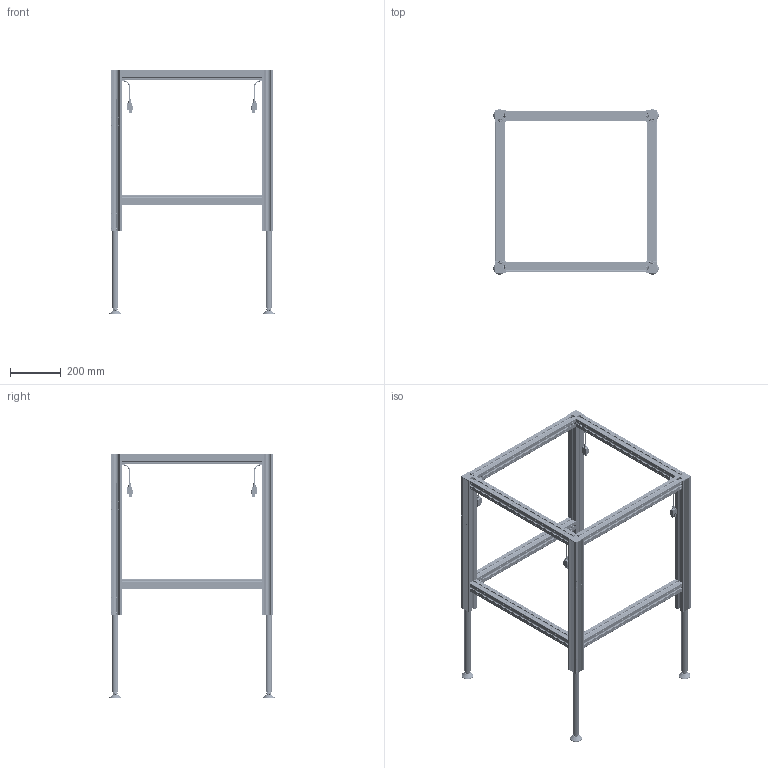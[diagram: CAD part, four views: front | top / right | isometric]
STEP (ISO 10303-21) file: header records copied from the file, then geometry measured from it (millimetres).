
FILE_DESCRIPTION(/* description */ ('Unknown'),/* implementation_level */ '2;1');
FILE_NAME(/* name */ 'Untergestell SQ.3 4330 595 XX XX_00-Ausgefahren',/* time_stamp */ '2022-02-04T13:35:05+01:00',/* author */ ('Unknown'),/* organization */ ('Unknown'),/* preprocessor_version */ 'ST-DEVELOPER v18.1',/* originating_system */ 'Solid Edge',/* authorisation */ 'Unknown');
FILE_SCHEMA (('AUTOMOTIVE_DESIGN {1 0 10303 214 3 1 1}'));
Products named in the file (19): Untergestell SQ.3 4330 595 XX XX; 907.02003_oa_0; 142.00014; 119.00500; 122.00005; 142.00020; 123.00110; 125.00051; 128.00040; Kabel Molex; 907.02003_oa_1; 115.00100; 119.00190; 142.00210; 113.00006; 113.00006-ohne Mutter; Mutter M10; 907.02003_oa_2; 907.02003_oa_3
Assembly tree (76 placements, depth 3):
  Untergestell SQ.3 4330 595 XX XX
    907.02003_oa_0
      142.00014  x4
      119.00500
      122.00005
      142.00020  x4
      123.00110
      125.00051
      128.00040
      Kabel Molex
    907.02003_oa_1
      142.00014  x4
      119.00500
      122.00005
      142.00020  x4
      123.00110
      125.00051
      128.00040
      Kabel Molex
    115.00100  x7
      119.00190
      142.00210
    113.00006  x4
      113.00006-ohne Mutter
      Mutter M10
    907.02003_oa_2
      142.00014  x4
      119.00500
      122.00005
      142.00020  x4
      123.00110
      125.00051
      128.00040
      Kabel Molex
    907.02003_oa_3
      142.00014  x4
      119.00500
      122.00005
      142.00020  x4
      123.00110
      125.00051
      128.00040
      Kabel Molex
Bounding box: 651 x 651 x 963 mm (x, y, z)
Volume: 5112715.4 mm3; surface area: 3706630.8 mm2
Topology: 99 solids, 99 shells, 13892 faces, 39146 edges, 25572 vertices
Faces by surface type: plane 7616, cylinder 4786, bspline 700, cone 310, torus 306, sphere 174
Full cylindrical faces by diameter (mm): 2.5 x52, 3 x16, 4 x48, 5 x40, 6.647 x4, 7.8 x14, 8.376 x12, 9.5 x4, 10 x4, 11.3 x14, 11.5 x14, 12 x14, 12.2 x14, 13.5 x14, 15 x4, 17.3 x4, 18 x28, 18.1 x14, 19 x8, 20.8 x12, 21 x8, 25 x12, 29 x4, 30 x8, 35 x4, 39 x4, 47 x4
Entity records: 108350 total; most frequent: CARTESIAN_POINT 24772, ORIENTED_EDGE 17164, DIRECTION 15957, EDGE_CURVE 8582, VERTEX_POINT 5667, AXIS2_PLACEMENT_3D 5336, LINE 5285, VECTOR 5285
